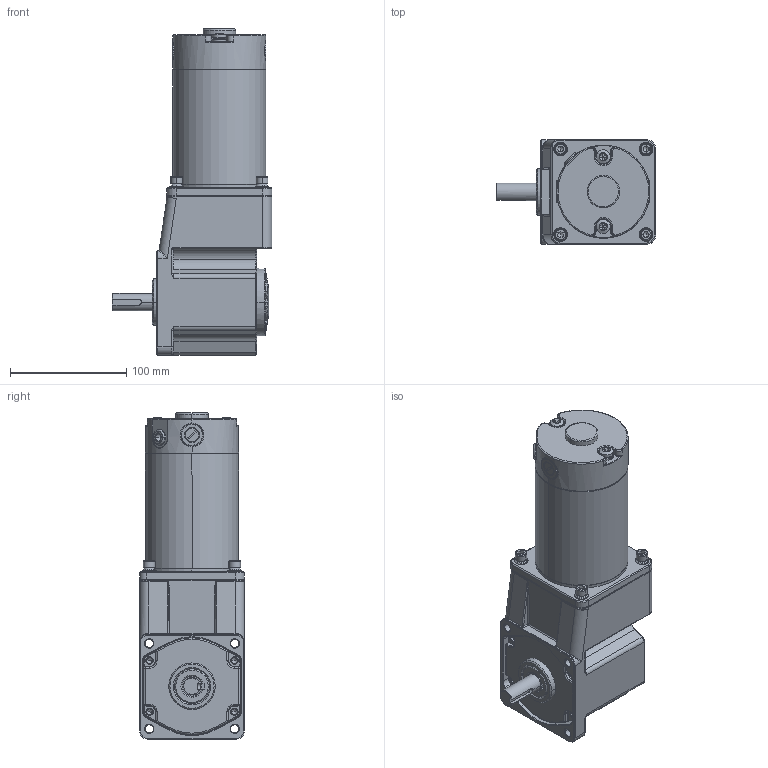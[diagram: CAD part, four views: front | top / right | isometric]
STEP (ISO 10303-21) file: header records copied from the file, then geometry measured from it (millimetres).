
FILE_DESCRIPTION (( 'STEP AP214' ), '1' );
FILE_NAME ('90-99»ú¿ÇRT.STEP', '2021-07-23T07:59:14', ( '' ), ( '' ), 'SwSTEP 2.0', 'SolidWorks 2021', '' );
FILE_SCHEMA (( 'AUTOMOTIVE_DESIGN' ));
Length unit declared in the file: millimetre
Products named in the file (9): LUDING_2; 90-60-90-120w_asm; PENGDIAN_2; HOUGAI-80-1_2; JIKE-99_1; 90-99儂褲RT; QIGAI_1_1; 5RT_1; TANDIAN_2
Assembly tree (11 placements, depth 3):
  90-99儂褲RT
    5RT_1
    90-60-90-120w_asm
      JIKE-99_1
      QIGAI_1_1
      LUDING_2  x2
      TANDIAN_2  x2
      PENGDIAN_2  x2
      HOUGAI-80-1_2
Bounding box: 137 x 90 x 280.5 mm (x, y, z)
Volume: 968045.8 mm3; surface area: 254328.8 mm2
Topology: 26 solids, 28 shells, 2254 faces, 5455 edges, 3230 vertices
Faces by surface type: cylinder 635, plane 541, cone 424, torus 291, bspline 287, sphere 76
Entity records: 92438 total; most frequent: CARTESIAN_POINT 43871, ORIENTED_EDGE 10474, DIRECTION 9602, EDGE_CURVE 5237, AXIS2_PLACEMENT_3D 3932, VERTEX_POINT 3135, EDGE_LOOP 2300, FACE_OUTER_BOUND 2192
